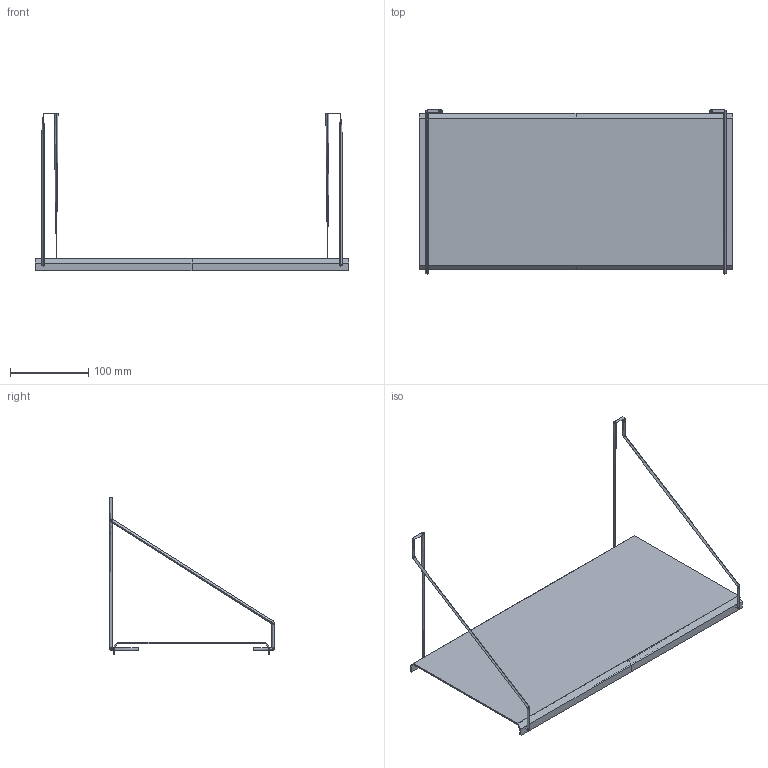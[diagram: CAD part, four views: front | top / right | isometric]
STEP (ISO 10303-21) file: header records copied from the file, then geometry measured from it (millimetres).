
FILE_DESCRIPTION(/* description */ (''),/* implementation_level */ '2;1');
FILE_NAME(/* name */ 'FRAMA_Shelf_Library_Single_Shelf_20x40_3D_File',/* time_stamp */ '2023-05-26T08:53:35+02:00',/* author */ (''),/* organization */ (''),/* preprocessor_version */ 'ST-DEVELOPER v16.5',/* originating_system */ 'Rhino 7.29',/* authorisation */ '');
FILE_SCHEMA (('CONFIG_CONTROL_DESIGN'));
Length unit declared in the file: millimetre
Products named in the file (3): Document; Block 02; Block 01
Assembly tree (2 placements, depth 2):
  Document
    Block 02
    Block 01
Bounding box: 400 x 211.32 x 201.78 mm (x, y, z)
Volume: 150671.2 mm3; surface area: 213493.6 mm2
Topology: 5 solids, 19 shells, 834 faces, 2837 edges, 1655 vertices
Faces by surface type: cylinder 496, bspline 288, plane 50
Full cylindrical faces by diameter (mm): 4 x72
Entity records: 44914 total; most frequent: CARTESIAN_POINT 30495, ORIENTED_EDGE 4738, EDGE_CURVE 2508, VERTEX_POINT 1496, B_SPLINE_CURVE_WITH_KNOTS 1169, EDGE_LOOP 846, ADVANCED_FACE 834, FACE_OUTER_BOUND 834
